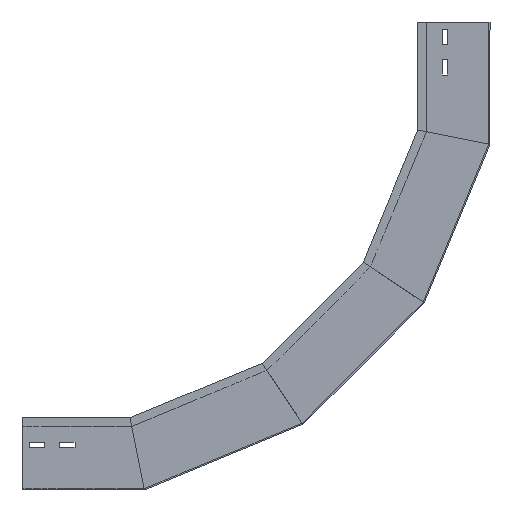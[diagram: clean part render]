
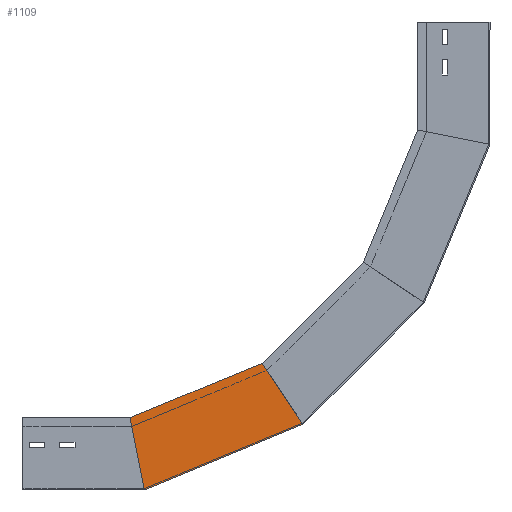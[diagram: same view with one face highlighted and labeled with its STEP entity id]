
A CAD part, left-side view. The second image highlights one B-rep face of the part: STEP entity #1109.
In plain terms, the highlighted planar face has unit normal (-1, 0, 0) as drawn and (1, 0, 0) by its records, which use the part's own axes.
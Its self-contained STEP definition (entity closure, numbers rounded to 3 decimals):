
#62 = EDGE_CURVE ( 'NONE', #1627, #846, #1629, .T. ) ;
#166 = ORIENTED_EDGE ( 'NONE', *, *, #1561, .F. ) ;
#240 = CARTESIAN_POINT ( 'NONE',  ( 0., 32.452, -163.145 ) ) ;
#245 = CARTESIAN_POINT ( 'NONE',  ( 0., 100., -149.709 ) ) ;
#247 = LINE ( 'NONE', #240, #885 ) ;
#332 = VECTOR ( 'NONE', #1299, 1000. ) ;
#405 = PLANE ( 'NONE',  #1130 ) ;
#436 = CARTESIAN_POINT ( 'NONE',  ( 0., 129.74, -363.769 ) ) ;
#776 = CARTESIAN_POINT ( 'NONE',  ( 0., 175.893, -332.93 ) ) ;
#845 = DIRECTION ( 'NONE',  ( 0., -0.981, -0.195 ) ) ;
#846 = VERTEX_POINT ( 'NONE', #895 ) ;
#874 = EDGE_LOOP ( 'NONE', ( #1452, #902, #1263, #166 ) ) ;
#878 = CARTESIAN_POINT ( 'NONE',  ( 0., 0., -169.6 ) ) ;
#885 = VECTOR ( 'NONE', #845, 1000. ) ;
#895 = CARTESIAN_POINT ( 'NONE',  ( 0., 91.117, -389.576 ) ) ;
#902 = ORIENTED_EDGE ( 'NONE', *, *, #1441, .T. ) ;
#978 = VECTOR ( 'NONE', #1457, 1000. ) ;
#1001 = CARTESIAN_POINT ( 'NONE',  ( 0., 0., -169.6 ) ) ;
#1105 = CARTESIAN_POINT ( 'NONE',  ( 0., 0., -169.6 ) ) ;
#1109 = ADVANCED_FACE ( 'NONE', ( #1708 ), #405, .F. ) ;
#1118 = CARTESIAN_POINT ( 'NONE',  ( 0., 92.388, -131.332 ) ) ;
#1130 = AXIS2_PLACEMENT_3D ( 'NONE', #1001, #1284, #1147 ) ;
#1147 = DIRECTION ( 'NONE',  ( 0., 0., 1. ) ) ;
#1263 = ORIENTED_EDGE ( 'NONE', *, *, #62, .T. ) ;
#1284 = DIRECTION ( 'NONE',  ( -1., 0., 0. ) ) ;
#1299 = DIRECTION ( 'NONE',  ( 0., 0.383, -0.924 ) ) ;
#1301 = VERTEX_POINT ( 'NONE', #776 ) ;
#1395 = VECTOR ( 'NONE', #1876, 1000. ) ;
#1441 = EDGE_CURVE ( 'NONE', #1805, #1627, #247, .T. ) ;
#1452 = ORIENTED_EDGE ( 'NONE', *, *, #1766, .F. ) ;
#1457 = DIRECTION ( 'NONE',  ( 0., -0.831, -0.556 ) ) ;
#1561 = EDGE_CURVE ( 'NONE', #1301, #846, #1891, .T. ) ;
#1627 = VERTEX_POINT ( 'NONE', #1105 ) ;
#1629 = LINE ( 'NONE', #878, #332 ) ;
#1708 = FACE_OUTER_BOUND ( 'NONE', #874, .T. ) ;
#1766 = EDGE_CURVE ( 'NONE', #1805, #1301, #1845, .T. ) ;
#1805 = VERTEX_POINT ( 'NONE', #245 ) ;
#1845 = LINE ( 'NONE', #1118, #1395 ) ;
#1876 = DIRECTION ( 'NONE',  ( 0., 0.383, -0.924 ) ) ;
#1891 = LINE ( 'NONE', #436, #978 ) ;
